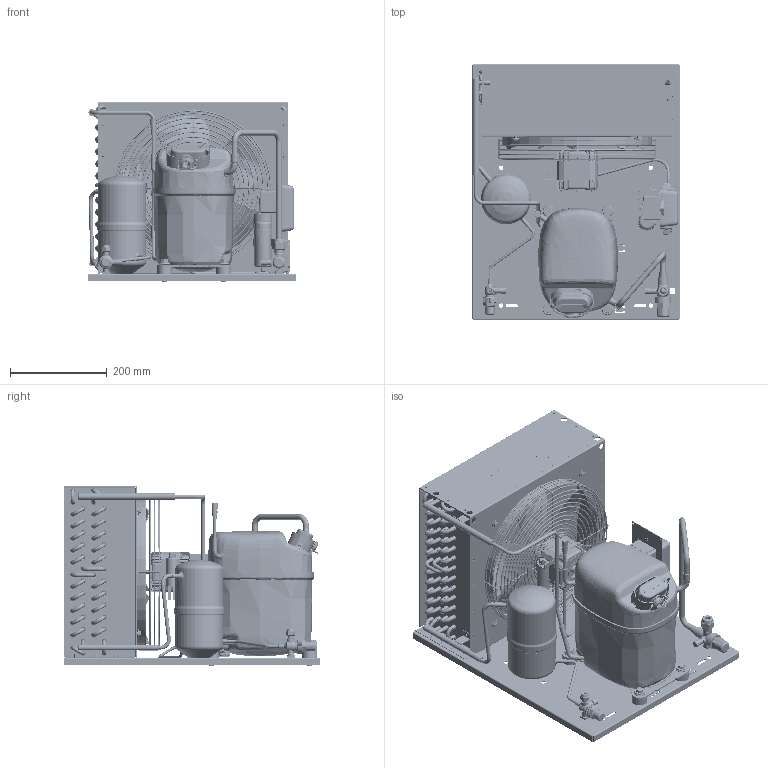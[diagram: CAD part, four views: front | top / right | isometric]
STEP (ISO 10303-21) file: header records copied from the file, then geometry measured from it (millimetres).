
FILE_DESCRIPTION(/* description */ ('Unknown'),/* implementation_level */ '2;1');
FILE_NAME(/* name */ '2298-0057_',/* time_stamp */ '2022-01-10T12:28:16+01:00',/* author */ ('Unknown'),/* organization */ ('Unknown'),/* preprocessor_version */ 'ST-DEVELOPER v16.7',/* originating_system */ 'Solid Edge',/* authorisation */ 'Unknown');
FILE_SCHEMA (('AUTOMOTIVE_DESIGN {1 0 10303 214 3 1 1}'));
Products named in the file (60): 2298-0057; 92505125_oa_0; 1440350c70; r50119606; r50119607; r50119601; r50000909; 2990210; r59700398; r50118004; r50115605; 84dm6x8xxxxgabf00; 84dm6x8xxxxgabf00_02; 84dm6x8xxxxgabf00_01; r50000850; 2990361; 6072_24M12; a300-28; a300-28_costruzione; 6062_22M6; 100_200vs00; 84fm8x12xxxteff00; 84DM8X6.9XXESRF00; 84im8xxxxxxtref00; 107b9151; 99510255; 8351_2; 99510255_Tubo; 8392_A; 84RM10X21XXPIAF00; 7030_4m12; 84fm8x40xxxtesf00; 7560_4; gs34tb-a-csr_cilindro_piede; 7560_2; 7210-0003; 7010_22; 84t4.8x8xxxtcca00_oa_1; 84t4.8x8xxxtcca00_oa_2; 84t4.8x8xxxtcca00_oa_3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
Assembly tree (150 placements, depth 4):
  2298-0057
    92505125_oa_0
    1440350c70
      r50119606
      r50119607
      r50119601
      r50000909
      2990210  x24
      r59700398  x30
      r50118004
      r50115605
      84dm6x8xxxxgabf00  x4
        84dm6x8xxxxgabf00_02
        84dm6x8xxxxgabf00_01
      r50000850  x2
      2990361  x2
    6072_24M12
    a300-28
      a300-28_costruzione  x5
    6062_22M6
    100_200vs00
    84fm8x12xxxteff00  x2
    84DM8X6.9XXESRF00
    84im8xxxxxxtref00  x4
    107b9151  x4
    99510255
      8351_2
      99510255_Tubo
      8392_A
    84RM10X21XXPIAF00  x4
    7030_4m12
    84fm8x40xxxtesf00  x4
    7560_4
    gs34tb-a-csr_cilindro_piede  x4
    7560_2
    8392_A  x2
    7210-0003  x2
    7010_22
    84t4.8x8xxxtcca00_oa_1
    84t4.8x8xxxtcca00_oa_2
    84t4.8x8xxxtcca00_oa_3
    84t4.8x8xxxtcca00_oa_4
    84a4.2x9.5xtbcf01  x3
    1bt35-25-1vno
    680081688
    G30035_oa_0
      G30035_01
      G30035_04  x4
      G30035_03
    84fm6x14xxxtesf00  x4
    84RM6X18XXXPIAF00  x4
    680123122
    84t4.8x8xxxtcca00_oa_5
    84t4.8x8xxxtcca00_oa_6
    99000082_secop
    55502406
    99000082_SECOP_F-GAS
    6803-1259
    6804-0549
    2298-0041_CAVO_VENTOLA_01
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Bounding box: 430 x 530 x 372.82 mm (x, y, z)
Volume: 11377172.9 mm3; surface area: 4401377.1 mm2
Topology: 162 solids, 196 shells, 9231 faces, 23107 edges, 14972 vertices
Faces by surface type: plane 5246, cylinder 1967, bspline 919, torus 642, cone 388, sphere 69
Full cylindrical faces by diameter (mm): 0.5 x1, 1 x3, 1.2 x4, 2.2 x4, 2.7 x19, 2.95 x7, 3 x15, 3.19 x3, 3.2 x4, 3.3 x2, 3.5 x5, 3.6 x8, 3.7 x4, 3.8 x7, 3.85 x1, 3.9 x2, 4 x30, 4.2 x7, 4.3 x1, 4.4 x4, 4.5 x24, 4.6 x5, 4.66 x4, 4.7 x6, 5 x15, 5.1 x2, 5.2 x1, 5.4 x4, 5.5 x15, 5.9 x3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
Entity records: 295817 total; most frequent: CARTESIAN_POINT 83556, ORIENTED_EDGE 34006, DIRECTION 32882, EDGE_CURVE 17289, VERTEX_POINT 12035, LINE 11438, VECTOR 11438, AXIS2_PLACEMENT_3D 10722
